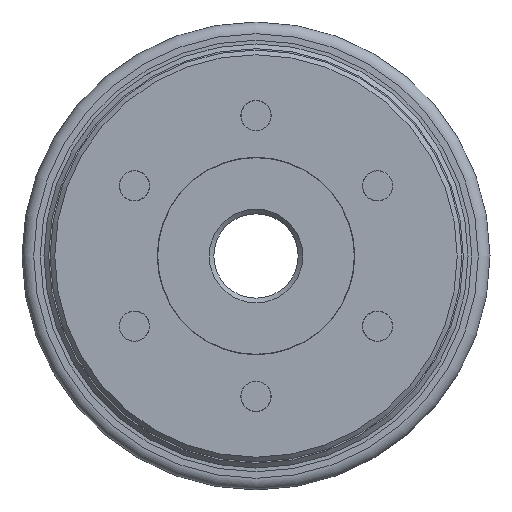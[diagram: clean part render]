
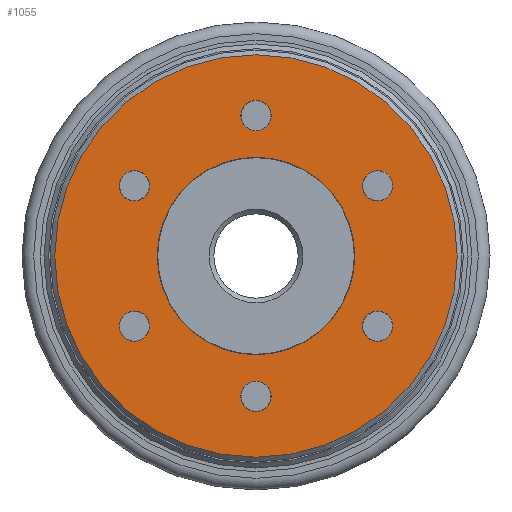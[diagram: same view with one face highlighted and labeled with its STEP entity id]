
A CAD part, left-side view. The second image highlights one B-rep face of the part: STEP entity #1055.
In plain terms, the highlighted planar face has unit normal (-1, 0, 0).
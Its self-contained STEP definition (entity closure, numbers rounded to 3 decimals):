
#1055 = ADVANCED_FACE( '', ( #2441, #2442, #2443, #2444, #2445, #2446, #2447, #2448 ), #2449, .T. );
#2441 = FACE_OUTER_BOUND( '', #4092, .T. );
#2442 = FACE_BOUND( '', #4093, .T. );
#2443 = FACE_BOUND( '', #4094, .T. );
#2444 = FACE_BOUND( '', #4095, .T. );
#2445 = FACE_BOUND( '', #4096, .T. );
#2446 = FACE_BOUND( '', #4097, .T. );
#2447 = FACE_BOUND( '', #4098, .T. );
#2448 = FACE_BOUND( '', #4099, .T. );
#2449 = PLANE( '', #4100 );
#4092 = EDGE_LOOP( '', ( #6835 ) );
#4093 = EDGE_LOOP( '', ( #6836 ) );
#4094 = EDGE_LOOP( '', ( #6837 ) );
#4095 = EDGE_LOOP( '', ( #6838 ) );
#4096 = EDGE_LOOP( '', ( #6839 ) );
#4097 = EDGE_LOOP( '', ( #6840 ) );
#4098 = EDGE_LOOP( '', ( #6841 ) );
#4099 = EDGE_LOOP( '', ( #6842 ) );
#4100 = AXIS2_PLACEMENT_3D( '', #6843, #6844, #6845 );
#6835 = ORIENTED_EDGE( '', *, *, #9008, .T. );
#6836 = ORIENTED_EDGE( '', *, *, #8697, .F. );
#6837 = ORIENTED_EDGE( '', *, *, #9009, .F. );
#6838 = ORIENTED_EDGE( '', *, *, #9010, .F. );
#6839 = ORIENTED_EDGE( '', *, *, #8990, .F. );
#6840 = ORIENTED_EDGE( '', *, *, #8848, .F. );
#6841 = ORIENTED_EDGE( '', *, *, #9011, .F. );
#6842 = ORIENTED_EDGE( '', *, *, #8570, .F. );
#6843 = CARTESIAN_POINT( '', ( -17.5, 0.002, -10.55 ) );
#6844 = DIRECTION( '', ( -1., 0., 0. ) );
#6845 = DIRECTION( '', ( 0., 1., 0. ) );
#8570 = EDGE_CURVE( '', #10143, #10143, #10144, .T. );
#8697 = EDGE_CURVE( '', #10324, #10324, #10325, .T. );
#8848 = EDGE_CURVE( '', #10542, #10542, #10543, .T. );
#8990 = EDGE_CURVE( '', #10723, #10723, #10724, .T. );
#9008 = EDGE_CURVE( '', #10744, #10744, #10745, .T. );
#9009 = EDGE_CURVE( '', #10746, #10746, #10747, .T. );
#9010 = EDGE_CURVE( '', #10748, #10748, #10749, .T. );
#9011 = EDGE_CURVE( '', #10750, #10750, #10751, .T. );
#10143 = VERTEX_POINT( '', #12122 );
#10144 = CIRCLE( '', #12123, 10.55 );
#10324 = VERTEX_POINT( '', #12337 );
#10325 = CIRCLE( '', #12338, 1.621 );
#10542 = VERTEX_POINT( '', #12599 );
#10543 = CIRCLE( '', #12600, 1.621 );
#10723 = VERTEX_POINT( '', #12836 );
#10724 = CIRCLE( '', #12837, 1.621 );
#10744 = VERTEX_POINT( '', #12864 );
#10745 = CIRCLE( '', #12865, 21.5 );
#10746 = VERTEX_POINT( '', #12866 );
#10747 = CIRCLE( '', #12867, 1.621 );
#10748 = VERTEX_POINT( '', #12868 );
#10749 = CIRCLE( '', #12869, 1.621 );
#10750 = VERTEX_POINT( '', #12870 );
#10751 = CIRCLE( '', #12871, 1.621 );
#12122 = CARTESIAN_POINT( '', ( -17.5, 0.002, -10.55 ) );
#12123 = AXIS2_PLACEMENT_3D( '', #13992, #13993, #13994 );
#12337 = CARTESIAN_POINT( '', ( -17.5, 14.396, -8.307 ) );
#12338 = AXIS2_PLACEMENT_3D( '', #14173, #14174, #14175 );
#12599 = CARTESIAN_POINT( '', ( -17.5, -14.392, -8.314 ) );
#12600 = AXIS2_PLACEMENT_3D( '', #14391, #14392, #14393 );
#12836 = CARTESIAN_POINT( '', ( -17.5, -14.396, 8.307 ) );
#12837 = AXIS2_PLACEMENT_3D( '', #14554, #14555, #14556 );
#12864 = CARTESIAN_POINT( '', ( -17.5, 0.005, -21.5 ) );
#12865 = AXIS2_PLACEMENT_3D( '', #14567, #14568, #14569 );
#12866 = CARTESIAN_POINT( '', ( -17.5, 14.392, 8.314 ) );
#12867 = AXIS2_PLACEMENT_3D( '', #14570, #14571, #14572 );
#12868 = CARTESIAN_POINT( '', ( -17.5, -0.003, 16.621 ) );
#12869 = AXIS2_PLACEMENT_3D( '', #14573, #14574, #14575 );
#12870 = CARTESIAN_POINT( '', ( -17.5, 0.003, -16.621 ) );
#12871 = AXIS2_PLACEMENT_3D( '', #14576, #14577, #14578 );
#13992 = CARTESIAN_POINT( '', ( -17.5, 0., 0. ) );
#13993 = DIRECTION( '', ( -1., 0., 0. ) );
#13994 = DIRECTION( '', ( 0., 0., -1. ) );
#14173 = CARTESIAN_POINT( '', ( -17.5, 12.992, -7.497 ) );
#14174 = DIRECTION( '', ( -1., 0., 0. ) );
#14175 = DIRECTION( '', ( 0., 0.866, -0.5 ) );
#14391 = CARTESIAN_POINT( '', ( -17.5, -12.989, -7.503 ) );
#14392 = DIRECTION( '', ( -1., 0., 0. ) );
#14393 = DIRECTION( '', ( 0., -0.866, -0.5 ) );
#14554 = CARTESIAN_POINT( '', ( -17.5, -12.992, 7.497 ) );
#14555 = DIRECTION( '', ( -1., 0., 0. ) );
#14556 = DIRECTION( '', ( 0., -0.866, 0.5 ) );
#14567 = CARTESIAN_POINT( '', ( -17.5, 0., 0. ) );
#14568 = DIRECTION( '', ( -1., 0., 0. ) );
#14569 = DIRECTION( '', ( 0., 0., -1. ) );
#14570 = CARTESIAN_POINT( '', ( -17.5, 12.989, 7.503 ) );
#14571 = DIRECTION( '', ( -1., 0., 0. ) );
#14572 = DIRECTION( '', ( 0., 0.866, 0.5 ) );
#14573 = CARTESIAN_POINT( '', ( -17.5, -0.003, 15. ) );
#14574 = DIRECTION( '', ( -1., 0., 0. ) );
#14575 = DIRECTION( '', ( 0., 0., 1. ) );
#14576 = CARTESIAN_POINT( '', ( -17.5, 0.003, -15. ) );
#14577 = DIRECTION( '', ( -1., 0., 0. ) );
#14578 = DIRECTION( '', ( 0., 0., -1. ) );
